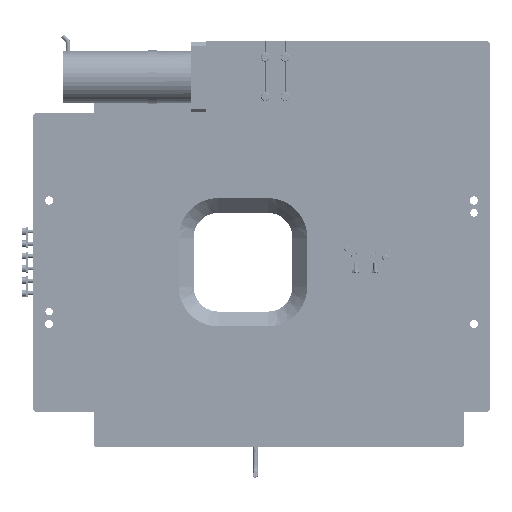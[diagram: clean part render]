
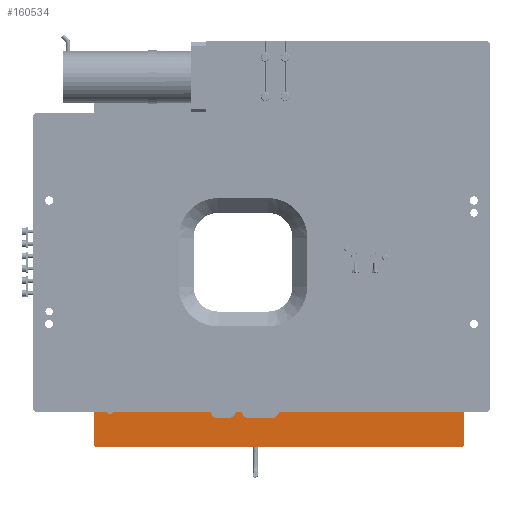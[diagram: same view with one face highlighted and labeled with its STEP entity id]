
A CAD part, front view. The second image highlights one B-rep face of the part: STEP entity #160534.
In plain terms, the highlighted planar face has unit normal (0, -1, 0).
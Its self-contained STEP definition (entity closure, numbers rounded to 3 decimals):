
#4736=DIRECTION('',(-1.,0.,0.));
#4737=VECTOR('',#4736,14.062);
#4738=CARTESIAN_POINT('',(162.062,59.,-34.7));
#4739=LINE('13150',#4738,#4737);
#4743=CARTESIAN_POINT('',(166.,59.,-34.));
#4744=DIRECTION('',(0.,-1.,0.));
#4745=DIRECTION('',(-0.985,0.,-0.175));
#4746=AXIS2_PLACEMENT_3D('',#4743,#4744,#4745);
#4751=CARTESIAN_POINT('',(166.,59.,-34.));
#4752=DIRECTION('',(0.,-1.,0.));
#4753=DIRECTION('',(0.,0.,-1.));
#4754=AXIS2_PLACEMENT_3D('',#4751,#4752,#4753);
#4759=DIRECTION('',(-1.,0.,0.));
#4760=VECTOR('',#4759,9.062);
#4761=CARTESIAN_POINT('',(179.,59.,-34.7));
#4762=LINE('12703',#4761,#4760);
#4766=DIRECTION('',(0.707,0.,0.707));
#4767=VECTOR('',#4766,2.828);
#4768=CARTESIAN_POINT('',(177.,59.,-150.));
#4769=LINE('11256',#4768,#4767);
#4773=DIRECTION('',(0.707,0.,-0.707));
#4774=VECTOR('',#4773,2.828);
#4775=CARTESIAN_POINT('',(-121.,59.,-148.));
#4776=LINE('11254',#4775,#4774);
#4780=DIRECTION('',(0.,0.,1.));
#4781=VECTOR('',#4780,29.);
#4782=CARTESIAN_POINT('',(-121.,59.,-148.));
#4783=LINE('13104',#4782,#4781);
#4787=CARTESIAN_POINT('',(-107.5,59.,-120.));
#4788=DIRECTION('',(0.,1.,0.));
#4789=DIRECTION('',(0.,0.,-1.));
#4790=AXIS2_PLACEMENT_3D('',#4787,#4788,#4789);
#4795=CARTESIAN_POINT('',(-107.5,59.,-120.));
#4796=DIRECTION('',(0.,1.,0.));
#4797=DIRECTION('',(0.943,0.,0.333));
#4798=AXIS2_PLACEMENT_3D('',#4795,#4796,#4797);
#4803=DIRECTION('',(0.,0.,-1.));
#4804=VECTOR('',#4803,2.);
#4805=CARTESIAN_POINT('',(-26.,59.,-119.));
#4806=LINE('13133',#4805,#4804);
#4810=DIRECTION('',(1.,0.,0.));
#4811=VECTOR('',#4810,10.);
#4812=CARTESIAN_POINT('',(-21.,59.,-126.));
#4813=LINE('11297',#4812,#4811);
#4817=DIRECTION('',(0.,0.,1.));
#4818=VECTOR('',#4817,2.);
#4819=CARTESIAN_POINT('',(-6.,59.,-121.));
#4820=LINE('13113',#4819,#4818);
#4824=DIRECTION('',(0.,0.,-1.));
#4825=VECTOR('',#4824,2.);
#4826=CARTESIAN_POINT('',(-1.,59.,-119.));
#4827=LINE('13114',#4826,#4825);
#4831=DIRECTION('',(1.,0.,0.));
#4832=VECTOR('',#4831,20.);
#4833=CARTESIAN_POINT('',(4.,59.,-126.));
#4834=LINE('11292',#4833,#4832);
#4838=DIRECTION('',(0.,0.,1.));
#4839=VECTOR('',#4838,2.);
#4840=CARTESIAN_POINT('',(29.,59.,-121.));
#4841=LINE('13144',#4840,#4839);
#4845=DIRECTION('',(-1.,0.,0.));
#4846=VECTOR('',#4845,119.);
#4847=CARTESIAN_POINT('',(148.,59.,-119.));
#4848=LINE('13050',#4847,#4846);
#4852=DIRECTION('',(-1.,0.,0.));
#4853=VECTOR('',#4852,5.);
#4854=CARTESIAN_POINT('',(-1.,59.,-119.));
#4855=LINE('13051',#4854,#4853);
#4859=DIRECTION('',(-1.,0.,0.));
#4860=VECTOR('',#4859,78.672);
#4861=CARTESIAN_POINT('',(-26.,59.,-119.));
#4862=LINE('13052',#4861,#4860);
#4866=DIRECTION('',(-1.,0.,0.));
#4867=VECTOR('',#4866,10.672);
#4868=CARTESIAN_POINT('',(-110.328,59.,-119.));
#4869=LINE('13053',#4868,#4867);
#11217=DIRECTION('',(1.,0.,0.));
#11218=VECTOR('',#11217,296.);
#11219=CARTESIAN_POINT('',(-119.,59.,-150.));
#11220=LINE('11268',#11219,#11218);
#11642=DIRECTION('',(0.,0.,1.));
#11643=VECTOR('',#11642,113.3);
#11644=CARTESIAN_POINT('',(179.,59.,-148.));
#11645=LINE('12718',#11644,#11643);
#11720=CARTESIAN_POINT('',(162.062,59.,-34.7));
#11792=DIRECTION('',(0.,0.,1.));
#11793=VECTOR('',#11792,84.3);
#11794=CARTESIAN_POINT('',(148.,59.,-119.));
#11795=LINE('13056',#11794,#11793);
#112410=CARTESIAN_POINT('',(24.,59.,-121.));
#112411=DIRECTION('',(0.,1.,0.));
#112412=DIRECTION('',(1.,0.,0.));
#112413=AXIS2_PLACEMENT_3D('',#112410,#112411,#112412);
#112818=CARTESIAN_POINT('',(4.,59.,-121.));
#112819=DIRECTION('',(0.,1.,0.));
#112820=DIRECTION('',(0.,0.,-1.));
#112821=AXIS2_PLACEMENT_3D('',#112818,#112819,#112820);
#128031=CARTESIAN_POINT('',(-21.,59.,-121.));
#128032=DIRECTION('',(0.,1.,0.));
#128033=DIRECTION('',(0.,0.,-1.));
#128034=AXIS2_PLACEMENT_3D('',#128031,#128032,#128033);
#128099=CARTESIAN_POINT('',(-11.,59.,-121.));
#128100=DIRECTION('',(0.,1.,0.));
#128101=DIRECTION('',(1.,0.,0.));
#128102=AXIS2_PLACEMENT_3D('',#128099,#128100,#128101);
#150096=CARTESIAN_POINT('',(-121.,59.,-148.));
#150097=VERTEX_POINT('',#150096);
#150098=CARTESIAN_POINT('',(-119.,59.,-150.));
#150099=VERTEX_POINT('',#150098);
#150100=CARTESIAN_POINT('',(177.,59.,-150.));
#150101=CARTESIAN_POINT('',(179.,59.,-148.));
#150102=VERTEX_POINT('',#150100);
#150103=VERTEX_POINT('',#150101);
#150154=CARTESIAN_POINT('',(-21.,59.,-126.));
#150155=VERTEX_POINT('',#150154);
#150156=CARTESIAN_POINT('',(-26.,59.,-121.));
#150157=VERTEX_POINT('',#150156);
#150162=CARTESIAN_POINT('',(-6.,59.,-121.));
#150163=VERTEX_POINT('',#150162);
#150164=CARTESIAN_POINT('',(-11.,59.,-126.));
#150165=VERTEX_POINT('',#150164);
#150166=CARTESIAN_POINT('',(4.,59.,-126.));
#150167=CARTESIAN_POINT('',(24.,59.,-126.));
#150168=VERTEX_POINT('',#150166);
#150169=VERTEX_POINT('',#150167);
#150170=CARTESIAN_POINT('',(-1.,59.,-121.));
#150171=VERTEX_POINT('',#150170);
#150172=CARTESIAN_POINT('',(29.,59.,-121.));
#150173=VERTEX_POINT('',#150172);
#150583=CARTESIAN_POINT('',(166.,59.,-38.));
#150584=VERTEX_POINT('',#150583);
#152079=CARTESIAN_POINT('',(179.,59.,-34.7));
#152080=CARTESIAN_POINT('',(169.938,59.,-34.7));
#152081=VERTEX_POINT('',#152079);
#152082=VERTEX_POINT('',#152080);
#152094=VERTEX_POINT('',#11720);
#152311=CARTESIAN_POINT('',(-107.5,59.,-123.));
#152312=VERTEX_POINT('',#152311);
#152389=CARTESIAN_POINT('',(-121.,59.,-119.));
#152391=VERTEX_POINT('',#152389);
#152451=CARTESIAN_POINT('',(-1.,59.,-119.));
#152453=VERTEX_POINT('',#152451);
#152467=CARTESIAN_POINT('',(29.,59.,-119.));
#152469=VERTEX_POINT('',#152467);
#152479=CARTESIAN_POINT('',(-26.,59.,-119.));
#152481=VERTEX_POINT('',#152479);
#152487=CARTESIAN_POINT('',(-6.,59.,-119.));
#152489=VERTEX_POINT('',#152487);
#152537=CARTESIAN_POINT('',(148.,59.,-34.7));
#152538=VERTEX_POINT('',#152537);
#152544=CARTESIAN_POINT('',(-104.672,59.,-119.));
#152546=VERTEX_POINT('',#152544);
#152547=CARTESIAN_POINT('',(-110.328,59.,-119.));
#152548=VERTEX_POINT('',#152547);
#152575=CARTESIAN_POINT('',(148.,59.,-119.));
#152576=VERTEX_POINT('',#152575);
#160478=CARTESIAN_POINT('',(-121.,59.,-150.));
#160479=DIRECTION('',(0.,-1.,0.));
#160480=DIRECTION('',(1.,0.,0.));
#160481=AXIS2_PLACEMENT_3D('',#160478,#160479,#160480);
#160482=PLANE('2262',#160481);
#160484=ORIENTED_EDGE('13050',*,*,#160483,.F.);
#160486=ORIENTED_EDGE('13056',*,*,#160485,.T.);
#160488=ORIENTED_EDGE('13150',*,*,#160487,.F.);
#160490=ORIENTED_EDGE('12726',*,*,#160489,.T.);
#160492=ORIENTED_EDGE('12727',*,*,#160491,.T.);
#160494=ORIENTED_EDGE('12703',*,*,#160493,.F.);
#160496=ORIENTED_EDGE('12718',*,*,#160495,.F.);
#160498=ORIENTED_EDGE('11256',*,*,#160497,.F.);
#160500=ORIENTED_EDGE('11268',*,*,#160499,.F.);
#160502=ORIENTED_EDGE('11254',*,*,#160501,.F.);
#160504=ORIENTED_EDGE('13104',*,*,#160503,.T.);
#160506=ORIENTED_EDGE('13053',*,*,#160505,.F.);
#160508=ORIENTED_EDGE('13158',*,*,#160507,.F.);
#160510=ORIENTED_EDGE('13157',*,*,#160509,.F.);
#160512=ORIENTED_EDGE('13052',*,*,#160511,.F.);
#160513=ORIENTED_EDGE('13133',*,*,#160042,.T.);
#160515=ORIENTED_EDGE('11298',*,*,#160514,.F.);
#160517=ORIENTED_EDGE('11297',*,*,#160516,.T.);
#160519=ORIENTED_EDGE('11299',*,*,#160518,.F.);
#160520=ORIENTED_EDGE('13113',*,*,#160145,.T.);
#160522=ORIENTED_EDGE('13051',*,*,#160521,.F.);
#160523=ORIENTED_EDGE('13114',*,*,#159293,.T.);
#160525=ORIENTED_EDGE('11300',*,*,#160524,.F.);
#160527=ORIENTED_EDGE('11292',*,*,#160526,.T.);
#160529=ORIENTED_EDGE('11301',*,*,#160528,.F.);
#160531=ORIENTED_EDGE('13144',*,*,#160530,.T.);
#160532=EDGE_LOOP('2262',(#160484,#160486,#160488,#160490,#160492,#160494,
#160496,#160498,#160500,#160502,#160504,#160506,#160508,#160510,#160512,#160513,
#160515,#160517,#160519,#160520,#160522,#160523,#160525,#160527,#160529,
#160531));
#160533=FACE_OUTER_BOUND('2262',#160532,.F.);
#4747=CIRCLE('12726',#4746,4.);
#4755=CIRCLE('12727',#4754,4.);
#4791=CIRCLE('13158',#4790,3.);
#4799=CIRCLE('13157',#4798,3.);
#112414=CIRCLE('11301',#112413,5.);
#112822=CIRCLE('11300',#112821,5.);
#128035=CIRCLE('11298',#128034,5.);
#128103=CIRCLE('11299',#128102,5.);
#159293=EDGE_CURVE('13114',#152453,#150171,#4827,.T.);
#160042=EDGE_CURVE('13133',#152481,#150157,#4806,.T.);
#160145=EDGE_CURVE('13113',#150163,#152489,#4820,.T.);
#160483=EDGE_CURVE('13050',#152576,#152469,#4848,.T.);
#160485=EDGE_CURVE('13056',#152576,#152538,#11795,.T.);
#160487=EDGE_CURVE('13150',#152094,#152538,#4739,.T.);
#160489=EDGE_CURVE('12726',#152094,#150584,#4747,.T.);
#160491=EDGE_CURVE('12727',#150584,#152082,#4755,.T.);
#160493=EDGE_CURVE('12703',#152081,#152082,#4762,.T.);
#160495=EDGE_CURVE('12718',#150103,#152081,#11645,.T.);
#160497=EDGE_CURVE('11256',#150102,#150103,#4769,.T.);
#160499=EDGE_CURVE('11268',#150099,#150102,#11220,.T.);
#160501=EDGE_CURVE('11254',#150097,#150099,#4776,.T.);
#160503=EDGE_CURVE('13104',#150097,#152391,#4783,.T.);
#160505=EDGE_CURVE('13053',#152548,#152391,#4869,.T.);
#160507=EDGE_CURVE('13158',#152312,#152548,#4791,.T.);
#160509=EDGE_CURVE('13157',#152546,#152312,#4799,.T.);
#160511=EDGE_CURVE('13052',#152481,#152546,#4862,.T.);
#160514=EDGE_CURVE('11298',#150155,#150157,#128035,.T.);
#160516=EDGE_CURVE('11297',#150155,#150165,#4813,.T.);
#160518=EDGE_CURVE('11299',#150163,#150165,#128103,.T.);
#160521=EDGE_CURVE('13051',#152453,#152489,#4855,.T.);
#160524=EDGE_CURVE('11300',#150168,#150171,#112822,.T.);
#160526=EDGE_CURVE('11292',#150168,#150169,#4834,.T.);
#160528=EDGE_CURVE('11301',#150173,#150169,#112414,.T.);
#160530=EDGE_CURVE('13144',#150173,#152469,#4841,.T.);
#160534=ADVANCED_FACE('2262',(#160533),#160482,.T.);
